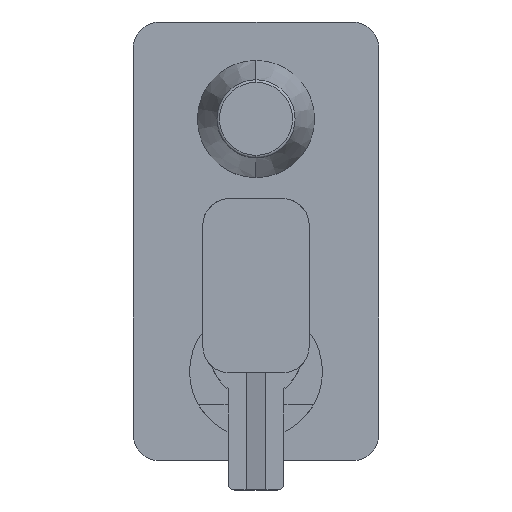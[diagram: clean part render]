
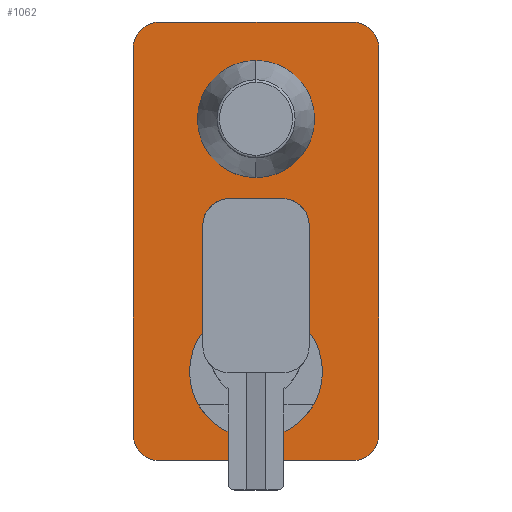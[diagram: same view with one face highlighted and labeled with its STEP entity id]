
A CAD part, top view. The second image highlights one B-rep face of the part: STEP entity #1062.
In plain terms, the highlighted planar face has unit normal (0, 0, 1).
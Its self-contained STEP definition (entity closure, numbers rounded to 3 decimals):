
#926 = VERTEX_POINT ( 'NONE', #2936 ) ;
#930 = VERTEX_POINT ( 'NONE', #2931 ) ;
#931 = EDGE_CURVE ( 'NONE', #930, #940, #2929, .T. ) ;
#939 = EDGE_CURVE ( 'NONE', #962, #926, #2909, .T. ) ;
#940 = VERTEX_POINT ( 'NONE', #2967 ) ;
#962 = VERTEX_POINT ( 'NONE', #2988 ) ;
#1055 = ORIENTED_EDGE ( 'NONE', *, *, #1141, .T. ) ;
#1056 = VERTEX_POINT ( 'NONE', #3175 ) ;
#1057 = EDGE_CURVE ( 'NONE', #1059, #1061, #3174, .T. ) ;
#1058 = VERTEX_POINT ( 'NONE', #3170 ) ;
#1059 = VERTEX_POINT ( 'NONE', #3169 ) ;
#1060 = ORIENTED_EDGE ( 'NONE', *, *, #1057, .T. ) ;
#1061 = VERTEX_POINT ( 'NONE', #3168 ) ;
#1062 = ADVANCED_FACE ( 'NONE', ( #3167, #3166, #3165 ), #3164, .F. ) ;
#1063 = EDGE_LOOP ( 'NONE', ( #1060, #1055, #1136, #1144, #1142, #1135, #1129, #1117 ) ) ;
#1117 = ORIENTED_EDGE ( 'NONE', *, *, #1118, .T. ) ;
#1118 = EDGE_CURVE ( 'NONE', #1132, #1059, #3247, .T. ) ;
#1119 = ORIENTED_EDGE ( 'NONE', *, *, #1120, .F. ) ;
#1120 = EDGE_CURVE ( 'NONE', #1121, #1122, #3303, .T. ) ;
#1121 = VERTEX_POINT ( 'NONE', #3299 ) ;
#1122 = VERTEX_POINT ( 'NONE', #3298 ) ;
#1123 = ORIENTED_EDGE ( 'NONE', *, *, #931, .F. ) ;
#1124 = EDGE_CURVE ( 'NONE', #1125, #1121, #3297, .T. ) ;
#1125 = VERTEX_POINT ( 'NONE', #3293 ) ;
#1126 = ORIENTED_EDGE ( 'NONE', *, *, #1127, .F. ) ;
#1127 = EDGE_CURVE ( 'NONE', #940, #1125, #3292, .T. ) ;
#1128 = EDGE_CURVE ( 'NONE', #1143, #1133, #3288, .T. ) ;
#1129 = ORIENTED_EDGE ( 'NONE', *, *, #1130, .T. ) ;
#1130 = EDGE_CURVE ( 'NONE', #1133, #1132, #3283, .T. ) ;
#1131 = EDGE_LOOP ( 'NONE', ( #1119, #1134, #1126, #1123, #1160 ) ) ;
#1132 = VERTEX_POINT ( 'NONE', #3279 ) ;
#1133 = VERTEX_POINT ( 'NONE', #3278 ) ;
#1134 = ORIENTED_EDGE ( 'NONE', *, *, #1124, .F. ) ;
#1135 = ORIENTED_EDGE ( 'NONE', *, *, #1128, .T. ) ;
#1136 = ORIENTED_EDGE ( 'NONE', *, *, #1137, .T. ) ;
#1137 = EDGE_CURVE ( 'NONE', #1058, #1056, #3277, .T. ) ;
#1138 = EDGE_CURVE ( 'NONE', #1056, #1139, #2791, .T. ) ;
#1139 = VERTEX_POINT ( 'NONE', #3333 ) ;
#1140 = EDGE_CURVE ( 'NONE', #1139, #1143, #3332, .T. ) ;
#1141 = EDGE_CURVE ( 'NONE', #1061, #1058, #3328, .T. ) ;
#1142 = ORIENTED_EDGE ( 'NONE', *, *, #1140, .T. ) ;
#1143 = VERTEX_POINT ( 'NONE', #3323 ) ;
#1144 = ORIENTED_EDGE ( 'NONE', *, *, #1138, .T. ) ;
#1159 = EDGE_CURVE ( 'NONE', #1122, #930, #3312, .T. ) ;
#1160 = ORIENTED_EDGE ( 'NONE', *, *, #1159, .F. ) ;
#1161 = ORIENTED_EDGE ( 'NONE', *, *, #1162, .F. ) ;
#1162 = EDGE_CURVE ( 'NONE', #926, #962, #3307, .T. ) ;
#1166 = ORIENTED_EDGE ( 'NONE', *, *, #939, .F. ) ;
#1177 = EDGE_LOOP ( 'NONE', ( #1161, #1166 ) ) ;
#2790 = AXIS2_PLACEMENT_3D ( 'NONE', #3032, #3031, #3273 ) ;
#2791 = CIRCLE ( 'NONE', #2790, 2. ) ;
#2908 = AXIS2_PLACEMENT_3D ( 'NONE', #2970, #2969, #2968 ) ;
#2909 = CIRCLE ( 'NONE', #2908, 4.4 ) ;
#2925 = DIRECTION ( 'NONE',  ( 1., 0., 0. ) ) ;
#2926 = DIRECTION ( 'NONE',  ( 0., 0., 1. ) ) ;
#2927 = CARTESIAN_POINT ( 'NONE',  ( 26.3, 9.25, 2. ) ) ;
#2928 = AXIS2_PLACEMENT_3D ( 'NONE', #2927, #2926, #2925 ) ;
#2929 = CIRCLE ( 'NONE', #2928, 5. ) ;
#2931 = CARTESIAN_POINT ( 'NONE',  ( 31.3, 9.25, 2. ) ) ;
#2936 = CARTESIAN_POINT ( 'NONE',  ( 2.9, 9.25, 2. ) ) ;
#2967 = CARTESIAN_POINT ( 'NONE',  ( 21.97, 11.75, 2. ) ) ;
#2968 = DIRECTION ( 'NONE',  ( -1., 0., 0. ) ) ;
#2969 = DIRECTION ( 'NONE',  ( 0., 0., 1. ) ) ;
#2970 = CARTESIAN_POINT ( 'NONE',  ( 7.3, 9.25, 2. ) ) ;
#2988 = CARTESIAN_POINT ( 'NONE',  ( 11.7, 9.25, 2. ) ) ;
#3031 = DIRECTION ( 'NONE',  ( 0., 0., 1. ) ) ;
#3032 = CARTESIAN_POINT ( 'NONE',  ( 2., 2., 2. ) ) ;
#3159 = DIRECTION ( 'NONE',  ( -1., 0., 0. ) ) ;
#3160 = DIRECTION ( 'NONE',  ( 0., 0., -1. ) ) ;
#3161 = CARTESIAN_POINT ( 'NONE',  ( 0., 18.5, 2. ) ) ;
#3162 = AXIS2_PLACEMENT_3D ( 'NONE', #3161, #3160, #3159 ) ;
#3164 = PLANE ( 'NONE',  #3162 ) ;
#3165 = FACE_BOUND ( 'NONE', #1177, .T. ) ;
#3166 = FACE_BOUND ( 'NONE', #1131, .T. ) ;
#3167 = FACE_OUTER_BOUND ( 'NONE', #1063, .T. ) ;
#3168 = CARTESIAN_POINT ( 'NONE',  ( 2., 18.5, 2. ) ) ;
#3169 = CARTESIAN_POINT ( 'NONE',  ( 31., 18.5, 2. ) ) ;
#3170 = CARTESIAN_POINT ( 'NONE',  ( 0., 16.5, 2. ) ) ;
#3171 = DIRECTION ( 'NONE',  ( -1., 0., 0. ) ) ;
#3172 = VECTOR ( 'NONE', #3171, 1000. ) ;
#3173 = CARTESIAN_POINT ( 'NONE',  ( 0., 18.5, 2. ) ) ;
#3174 = LINE ( 'NONE', #3173, #3172 ) ;
#3175 = CARTESIAN_POINT ( 'NONE',  ( 0., 2., 2. ) ) ;
#3244 = DIRECTION ( 'NONE',  ( -1., 0., 0. ) ) ;
#3245 = DIRECTION ( 'NONE',  ( 0., 0., 1. ) ) ;
#3246 = AXIS2_PLACEMENT_3D ( 'NONE', #3253, #3245, #3244 ) ;
#3247 = CIRCLE ( 'NONE', #3246, 2. ) ;
#3253 = CARTESIAN_POINT ( 'NONE',  ( 31., 16.5, 2. ) ) ;
#3273 = DIRECTION ( 'NONE',  ( -1., 0., 0. ) ) ;
#3274 = DIRECTION ( 'NONE',  ( 0., -1., 0. ) ) ;
#3275 = VECTOR ( 'NONE', #3274, 1000. ) ;
#3276 = CARTESIAN_POINT ( 'NONE',  ( 0., 0., 2. ) ) ;
#3277 = LINE ( 'NONE', #3276, #3275 ) ;
#3278 = CARTESIAN_POINT ( 'NONE',  ( 33., 2., 2. ) ) ;
#3279 = CARTESIAN_POINT ( 'NONE',  ( 33., 16.5, 2. ) ) ;
#3280 = DIRECTION ( 'NONE',  ( 0., 1., 0. ) ) ;
#3281 = VECTOR ( 'NONE', #3280, 1000. ) ;
#3282 = CARTESIAN_POINT ( 'NONE',  ( 33., 0., 2. ) ) ;
#3283 = LINE ( 'NONE', #3282, #3281 ) ;
#3284 = DIRECTION ( 'NONE',  ( -1., 0., 0. ) ) ;
#3285 = DIRECTION ( 'NONE',  ( 0., 0., 1. ) ) ;
#3286 = CARTESIAN_POINT ( 'NONE',  ( 31., 2., 2. ) ) ;
#3287 = AXIS2_PLACEMENT_3D ( 'NONE', #3286, #3285, #3284 ) ;
#3288 = CIRCLE ( 'NONE', #3287, 2. ) ;
#3289 = DIRECTION ( 'NONE',  ( -1., 0., 0. ) ) ;
#3290 = VECTOR ( 'NONE', #3289, 1000. ) ;
#3291 = CARTESIAN_POINT ( 'NONE',  ( 16.3, 11.75, 2. ) ) ;
#3292 = LINE ( 'NONE', #3291, #3290 ) ;
#3293 = CARTESIAN_POINT ( 'NONE',  ( 16.3, 11.75, 2. ) ) ;
#3294 = DIRECTION ( 'NONE',  ( 0., -1., 0. ) ) ;
#3295 = VECTOR ( 'NONE', #3294, 1000. ) ;
#3296 = CARTESIAN_POINT ( 'NONE',  ( 16.3, 11.75, 2. ) ) ;
#3297 = LINE ( 'NONE', #3296, #3295 ) ;
#3298 = CARTESIAN_POINT ( 'NONE',  ( 21.97, 6.75, 2. ) ) ;
#3299 = CARTESIAN_POINT ( 'NONE',  ( 16.3, 6.75, 2. ) ) ;
#3300 = DIRECTION ( 'NONE',  ( 1., 0., 0. ) ) ;
#3301 = VECTOR ( 'NONE', #3300, 1000. ) ;
#3302 = CARTESIAN_POINT ( 'NONE',  ( 16.3, 6.75, 2. ) ) ;
#3303 = LINE ( 'NONE', #3302, #3301 ) ;
#3304 = DIRECTION ( 'NONE',  ( 0., 0., 1. ) ) ;
#3305 = CARTESIAN_POINT ( 'NONE',  ( 7.3, 9.25, 2. ) ) ;
#3306 = AXIS2_PLACEMENT_3D ( 'NONE', #3305, #3304, #3364 ) ;
#3307 = CIRCLE ( 'NONE', #3306, 4.4 ) ;
#3308 = DIRECTION ( 'NONE',  ( 1., 0., 0. ) ) ;
#3309 = DIRECTION ( 'NONE',  ( 0., 0., 1. ) ) ;
#3310 = CARTESIAN_POINT ( 'NONE',  ( 26.3, 9.25, 2. ) ) ;
#3311 = AXIS2_PLACEMENT_3D ( 'NONE', #3310, #3309, #3308 ) ;
#3312 = CIRCLE ( 'NONE', #3311, 5. ) ;
#3323 = CARTESIAN_POINT ( 'NONE',  ( 31., 0., 2. ) ) ;
#3324 = DIRECTION ( 'NONE',  ( -1., 0., 0. ) ) ;
#3325 = DIRECTION ( 'NONE',  ( 0., 0., 1. ) ) ;
#3326 = CARTESIAN_POINT ( 'NONE',  ( 2., 16.5, 2. ) ) ;
#3327 = AXIS2_PLACEMENT_3D ( 'NONE', #3326, #3325, #3324 ) ;
#3328 = CIRCLE ( 'NONE', #3327, 2. ) ;
#3329 = DIRECTION ( 'NONE',  ( 1., 0., 0. ) ) ;
#3330 = VECTOR ( 'NONE', #3329, 1000. ) ;
#3331 = CARTESIAN_POINT ( 'NONE',  ( 0., 0., 2. ) ) ;
#3332 = LINE ( 'NONE', #3331, #3330 ) ;
#3333 = CARTESIAN_POINT ( 'NONE',  ( 2., 0., 2. ) ) ;
#3364 = DIRECTION ( 'NONE',  ( -1., 0., 0. ) ) ;
